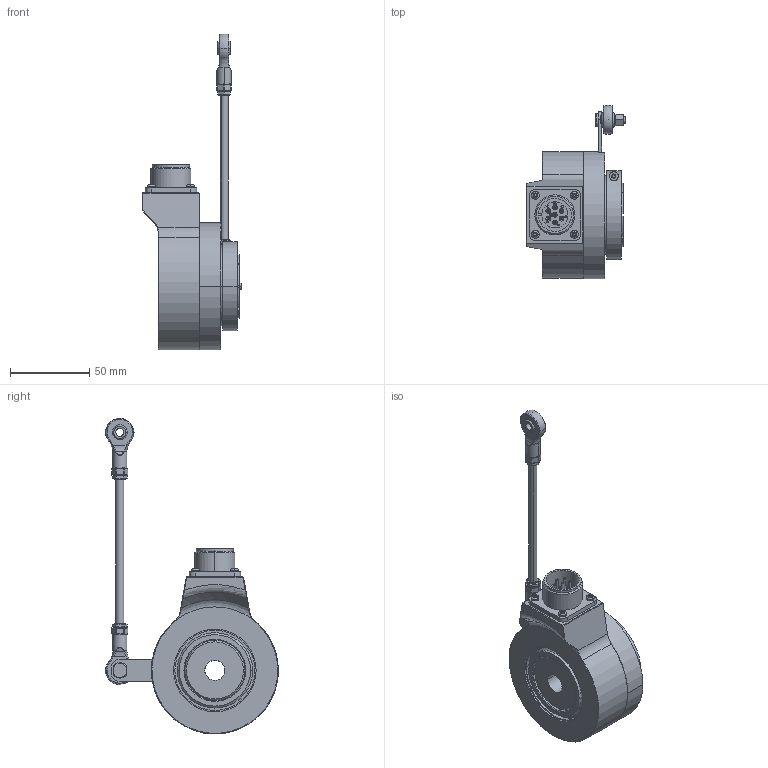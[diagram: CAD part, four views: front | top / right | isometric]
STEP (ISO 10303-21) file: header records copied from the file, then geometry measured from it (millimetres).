
FILE_DESCRIPTION (( 'STEP AP203' ), '1' );
FILE_NAME ('K80I.OXX.XXXXX.XH2783A.6XRCD.step', '2025-12-09T12:56:14', ( '' ), ( '' ), 'SwSTEP 2.0', 'SolidWorks 2021', '' );
FILE_SCHEMA (( 'CONFIG_CONTROL_DESIGN' ));
Length unit declared in the file: millimetre
Products named in the file (1): K80I.OXX.XXXXX.XH2783A.6XRCD
Bounding box: 62.6 x 108.97 x 199.07 mm (x, y, z)
Volume: 251539.7 mm3; surface area: 82629 mm2
Topology: 15 solids, 15 shells, 897 faces, 2272 edges, 1431 vertices
Faces by surface type: plane 343, cylinder 287, bspline 102, cone 93, torus 58, sphere 14
Entity records: 32484 total; most frequent: CARTESIAN_POINT 11260, ORIENTED_EDGE 4468, DIRECTION 4376, EDGE_CURVE 2234, AXIS2_PLACEMENT_3D 1688, VERTEX_POINT 1427, VECTOR 1000, LINE 1000
